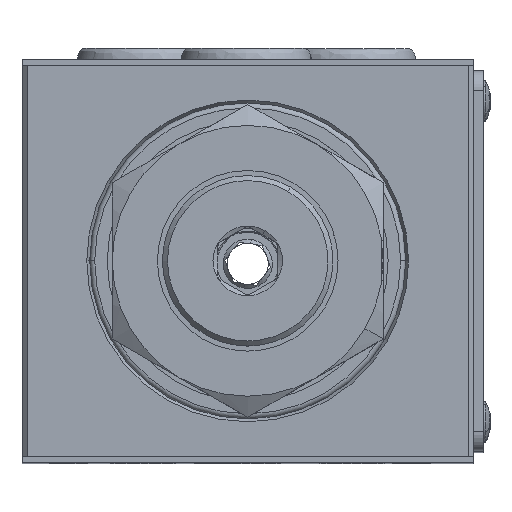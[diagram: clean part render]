
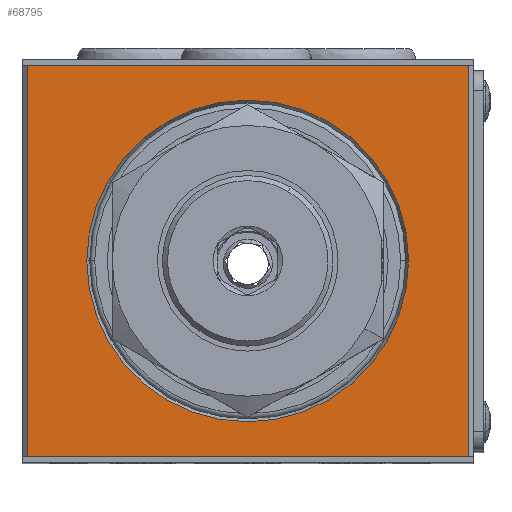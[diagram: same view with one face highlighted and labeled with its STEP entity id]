
A CAD part, top view. The second image highlights one B-rep face of the part: STEP entity #68795.
In plain terms, the highlighted planar face has unit normal (0, 0, 1).
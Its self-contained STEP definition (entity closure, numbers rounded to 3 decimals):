
#4536 = LINE ( 'NONE', #26021, #38754 ) ;
#4561 = CARTESIAN_POINT ( 'NONE',  ( -16.039, 0., 91.5 ) ) ;
#4785 = AXIS2_PLACEMENT_3D ( 'NONE', #31921, #37431, #66995 ) ;
#5595 = VERTEX_POINT ( 'NONE', #15631 ) ;
#8887 = DIRECTION ( 'NONE',  ( 0., 1., 0. ) ) ;
#9079 = AXIS2_PLACEMENT_3D ( 'NONE', #31660, #67478, #61823 ) ;
#9213 = EDGE_LOOP ( 'NONE', ( #24695, #50345 ) ) ;
#9340 = LINE ( 'NONE', #56056, #69242 ) ;
#12537 = VERTEX_POINT ( 'NONE', #4561 ) ;
#13267 = VECTOR ( 'NONE', #46113, 1000. ) ;
#14929 = VERTEX_POINT ( 'NONE', #29556 ) ;
#15631 = CARTESIAN_POINT ( 'NONE',  ( 22., 19.5, 91.5 ) ) ;
#21180 = DIRECTION ( 'NONE',  ( 1., 0., 0. ) ) ;
#22432 = CARTESIAN_POINT ( 'NONE',  ( -22., -19.5, 91.5 ) ) ;
#24695 = ORIENTED_EDGE ( 'NONE', *, *, #64097, .T. ) ;
#26021 = CARTESIAN_POINT ( 'NONE',  ( -40.31, -19.5, 91.5 ) ) ;
#26720 = ORIENTED_EDGE ( 'NONE', *, *, #75258, .T. ) ;
#29556 = CARTESIAN_POINT ( 'NONE',  ( 22., -19.5, 91.5 ) ) ;
#31289 = CIRCLE ( 'NONE', #9079, 16.039 ) ;
#31660 = CARTESIAN_POINT ( 'NONE',  ( 0., 0., 91.5 ) ) ;
#31921 = CARTESIAN_POINT ( 'NONE',  ( 0., 0., 91.5 ) ) ;
#35971 = ORIENTED_EDGE ( 'NONE', *, *, #47016, .F. ) ;
#37304 = LINE ( 'NONE', #63033, #13267 ) ;
#37431 = DIRECTION ( 'NONE',  ( 0., 0., -1. ) ) ;
#38754 = VECTOR ( 'NONE', #68276, 1000. ) ;
#38762 = AXIS2_PLACEMENT_3D ( 'NONE', #70805, #54117, #42360 ) ;
#39140 = VERTEX_POINT ( 'NONE', #53578 ) ;
#40094 = ORIENTED_EDGE ( 'NONE', *, *, #50944, .T. ) ;
#42360 = DIRECTION ( 'NONE',  ( -1., 0., 0. ) ) ;
#42741 = ORIENTED_EDGE ( 'NONE', *, *, #43759, .T. ) ;
#43759 = EDGE_CURVE ( 'NONE', #55936, #65331, #37304, .T. ) ;
#46113 = DIRECTION ( 'NONE',  ( 0., -1., 0. ) ) ;
#46776 = FACE_BOUND ( 'NONE', #9213, .T. ) ;
#47016 = EDGE_CURVE ( 'NONE', #55936, #5595, #9340, .T. ) ;
#50001 = CARTESIAN_POINT ( 'NONE',  ( 22., 20.1, 91.5 ) ) ;
#50345 = ORIENTED_EDGE ( 'NONE', *, *, #54045, .T. ) ;
#50559 = VECTOR ( 'NONE', #8887, 1000. ) ;
#50944 = EDGE_CURVE ( 'NONE', #65331, #14929, #4536, .T. ) ;
#53578 = CARTESIAN_POINT ( 'NONE',  ( 16.039, 0., 91.5 ) ) ;
#54045 = EDGE_CURVE ( 'NONE', #39140, #12537, #31289, .T. ) ;
#54117 = DIRECTION ( 'NONE',  ( 0., 0., 1. ) ) ;
#54124 = CARTESIAN_POINT ( 'NONE',  ( -22., 19.5, 91.5 ) ) ;
#55227 = EDGE_LOOP ( 'NONE', ( #40094, #26720, #35971, #42741 ) ) ;
#55936 = VERTEX_POINT ( 'NONE', #54124 ) ;
#56056 = CARTESIAN_POINT ( 'NONE',  ( -40.31, 19.5, 91.5 ) ) ;
#61823 = DIRECTION ( 'NONE',  ( -1., 0., 0. ) ) ;
#63033 = CARTESIAN_POINT ( 'NONE',  ( -22., 20.1, 91.5 ) ) ;
#63403 = CIRCLE ( 'NONE', #4785, 16.039 ) ;
#64097 = EDGE_CURVE ( 'NONE', #12537, #39140, #63403, .T. ) ;
#64956 = PLANE ( 'NONE',  #38762 ) ;
#65331 = VERTEX_POINT ( 'NONE', #22432 ) ;
#66145 = LINE ( 'NONE', #50001, #50559 ) ;
#66995 = DIRECTION ( 'NONE',  ( -1., 0., 0. ) ) ;
#67478 = DIRECTION ( 'NONE',  ( 0., 0., -1. ) ) ;
#68276 = DIRECTION ( 'NONE',  ( 1., 0., 0. ) ) ;
#68795 = ADVANCED_FACE ( 'NONE', ( #46776, #72418 ), #64956, .T. ) ;
#69242 = VECTOR ( 'NONE', #21180, 1000. ) ;
#70805 = CARTESIAN_POINT ( 'NONE',  ( 22.5, 20.1, 91.5 ) ) ;
#72418 = FACE_OUTER_BOUND ( 'NONE', #55227, .T. ) ;
#75258 = EDGE_CURVE ( 'NONE', #14929, #5595, #66145, .T. ) ;
